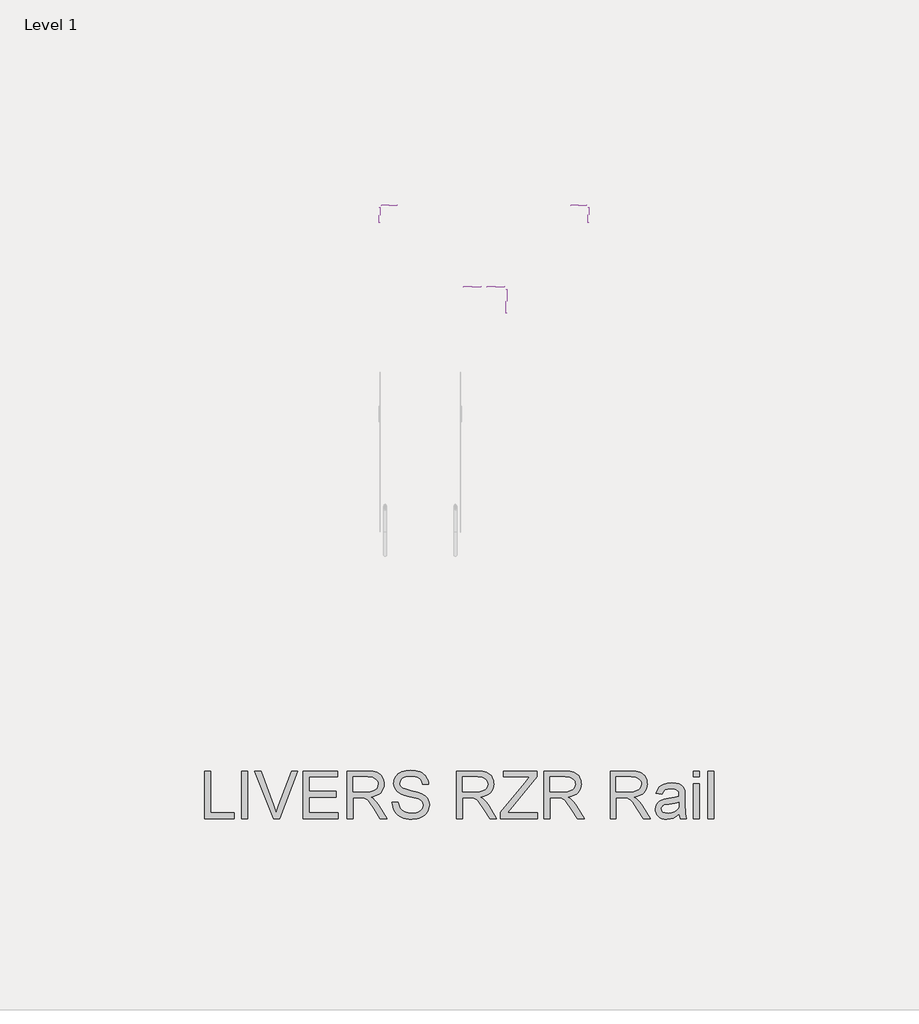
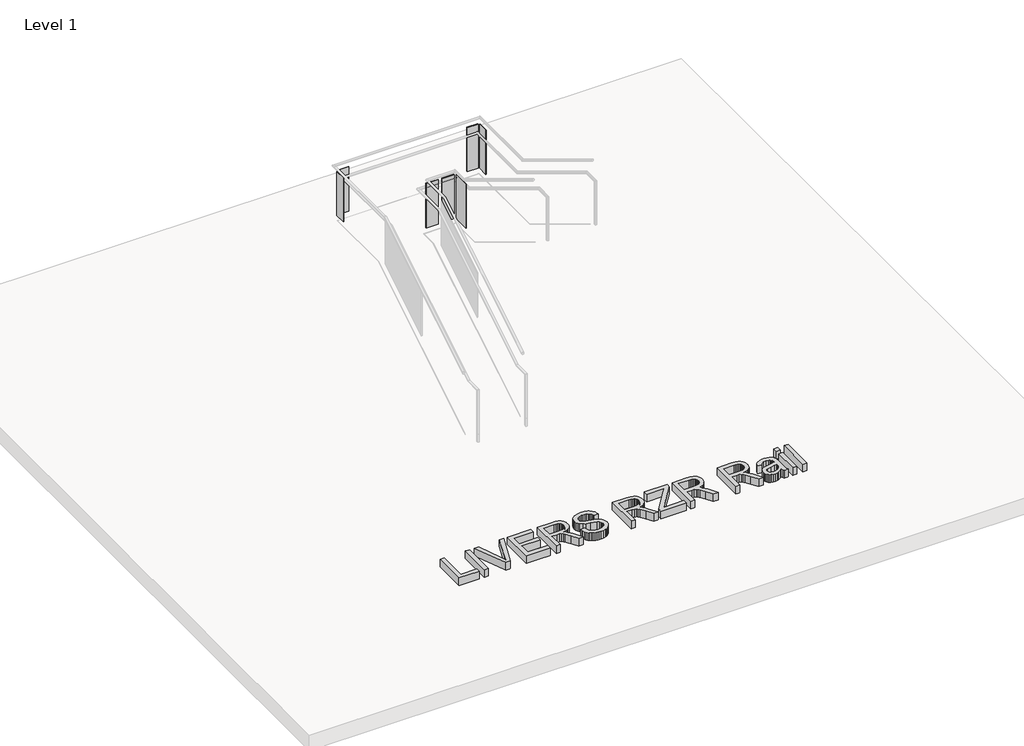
# One storey, part 2 of 2: 8 proxies.
"""IFC4 building model written with IfcOpenShell, lengths in millimetres."""

import ifcopenshell
import ifcopenshell.guid

model = None  # the IFC model being written
_history = None  # IfcOwnerHistory: only IFC2X3 demands one
_inside = {}  # id of a spatial element -> (the spatial element, [elements in it])
_under = {}  # id of a project, library or spatial element -> (it, [spatial elements below it])
_declared = {}  # id of a project -> (the project, [libraries it declares])
_typed = {}  # id of a type object -> (the type object, [elements of that type])
_made_of = {}  # id of a material, layer set ... -> (it, [elements and type objects made of it])


def new_model(schema):
    """Start an empty IFC model of exactly this schema.

    Asked for "IFC4X3", IfcOpenShell would pick the latest addendum, in which some entities
    have other attributes; the version numbers below select the first issue.
    IFC2X3 requires an IfcOwnerHistory on every rooted entity: one is made here for all.
    """
    global model, _history
    if schema == "IFC4X3":
        model = ifcopenshell.file(schema_version=(4, 3, 0, 0))
    else:
        model = ifcopenshell.file(schema=schema)
    _inside.clear()
    _under.clear()
    _declared.clear()
    _typed.clear()
    _made_of.clear()
    _history = None
    if model.schema == "IFC2X3":
        org = make("IfcOrganization", Name="unknown")
        user = make(
            "IfcPersonAndOrganization",
            ThePerson=make("IfcPerson", FamilyName="unknown"),
            TheOrganization=org,
        )
        app = make(
            "IfcApplication",
            ApplicationDeveloper=org,
            Version="unknown",
            ApplicationFullName="unknown",
            ApplicationIdentifier="unknown",
        )
        _history = make(
            "IfcOwnerHistory",
            OwningUser=user,
            OwningApplication=app,
            ChangeAction="ADDED",
            CreationDate=0,
        )
    return model


def make(cls, **values):
    """One entity of the class cls with the attributes given. An attribute that is None is left unset."""
    return model.create_entity(
        cls, **{name: value for name, value in values.items() if value is not None}
    )


def rooted(cls, **values):
    """An entity with a GlobalId (a new one), such as an element, a storey or a relation."""
    return make(cls, GlobalId=ifcopenshell.guid.new(), OwnerHistory=_history, **values)


def si_unit(unit_type, name, prefix=None):
    """IfcSIUnit, for example si_unit("LENGTHUNIT", "METRE", prefix="MILLI")."""
    return make("IfcSIUnit", UnitType=unit_type, Prefix=prefix, Name=name)


def assignment(units):
    """IfcUnitAssignment: the units of a project."""
    return None if units is None else make("IfcUnitAssignment", Units=units)


def point(xyz):
    """IfcCartesianPoint."""
    return None if xyz is None else make("IfcCartesianPoint", Coordinates=xyz)


def direction(xyz):
    """IfcDirection."""
    return None if xyz is None else make("IfcDirection", DirectionRatios=xyz)


def frame(location, z_axis=None, x_axis=None):
    """IfcAxis2Placement3D, a coordinate frame: its origin and axes. An axis left out is left unset."""
    return make(
        "IfcAxis2Placement3D",
        Location=point(location),
        Axis=direction(z_axis),
        RefDirection=direction(x_axis),
    )


def origin():
    """The frame at (0, 0, 0) with its axes left unset."""
    return frame((0.0, 0.0, 0.0))


def origin_with_axes():
    """The frame at (0, 0, 0) with the z axis (0, 0, 1) and the x axis (1, 0, 0) written out."""
    return frame((0.0, 0.0, 0.0), z_axis=(0.0, 0.0, 1.0), x_axis=(1.0, 0.0, 0.0))


def place(relative_to, where):
    """IfcLocalPlacement: puts the frame where relative to a parent placement (None: the world)."""
    return make(
        "IfcLocalPlacement", PlacementRelTo=relative_to, RelativePlacement=where
    )


def context(
    kind, dimensions, precision=None, world=None, true_north=None, identifier=None
):
    """IfcGeometricRepresentationContext, for example the 3D "Model" context."""
    return make(
        "IfcGeometricRepresentationContext",
        ContextIdentifier=identifier,
        ContextType=kind,
        CoordinateSpaceDimension=dimensions,
        Precision=precision,
        WorldCoordinateSystem=world,
        TrueNorth=true_north,
    )


def project(units=None, contexts=None):
    """IfcProject with its units and contexts."""
    return rooted(
        "IfcProject",
        Name="project",
        RepresentationContexts=contexts,
        UnitsInContext=assignment(units),
    )


def spatial(cls, under=None, at=None, **own):
    """A site, building, storey or space (cls), placed at a placement, below another one or the project."""
    s = rooted(cls, ObjectPlacement=at, **own)
    if under is not None:
        _under.setdefault(under.id(), (under, []))[1].append(s)
    return s


def polyline(points):
    """IfcPolyline through the points."""
    return make("IfcPolyline", Points=[point(p) for p in points])


def outline(outer, holes=None, kind="AREA"):
    """IfcArbitraryClosedProfileDef: a profile drawn as a closed curve; with holes, ...WithVoids."""
    if holes is None:
        return make("IfcArbitraryClosedProfileDef", ProfileType=kind, OuterCurve=outer)
    return make(
        "IfcArbitraryProfileDefWithVoids",
        ProfileType=kind,
        OuterCurve=outer,
        InnerCurves=holes,
    )


def extrude(swept, where, along, depth):
    """IfcExtrudedAreaSolid: the profile swept, set in the frame where, extruded along a direction by depth."""
    return make(
        "IfcExtrudedAreaSolid",
        SweptArea=swept,
        Position=where,
        ExtrudedDirection=direction(along),
        Depth=depth,
    )


def shape(context_of_items, identifier, shape_type, items):
    """IfcShapeRepresentation: the items that make up one representation, for example the "Body"."""
    return make(
        "IfcShapeRepresentation",
        ContextOfItems=context_of_items,
        RepresentationIdentifier=identifier,
        RepresentationType=shape_type,
        Items=items,
    )


def source(mapping_origin, context_of_items, identifier, shape_type, items):
    """IfcRepresentationMap: a shape defined once, which mapped items show again and again."""
    return make(
        "IfcRepresentationMap",
        MappingOrigin=mapping_origin,
        MappedRepresentation=shape(context_of_items, identifier, shape_type, items),
    )


def transform(
    local_origin,
    x_axis=None,
    y_axis=None,
    z_axis=None,
    scale=None,
    scale2=None,
    scale3=None,
    uniform=True,
):
    """IfcCartesianTransformationOperator3D, or its non-uniform kind. x_axis, y_axis, z_axis: its Axis1, 2, 3."""
    if uniform:
        return make(
            "IfcCartesianTransformationOperator3D",
            Axis1=direction(x_axis),
            Axis2=direction(y_axis),
            LocalOrigin=point(local_origin),
            Scale=scale,
            Axis3=direction(z_axis),
        )
    return make(
        "IfcCartesianTransformationOperator3DnonUniform",
        Axis1=direction(x_axis),
        Axis2=direction(y_axis),
        LocalOrigin=point(local_origin),
        Scale=scale,
        Axis3=direction(z_axis),
        Scale2=scale2,
        Scale3=scale3,
    )


def mapped(mapping_source, mapping_target):
    """IfcMappedItem: shows the shape of a source again, moved by a transform."""
    return make(
        "IfcMappedItem", MappingSource=mapping_source, MappingTarget=mapping_target
    )


def made_of(thing, what):
    """Note that an element or type object is made of a material, layer set ...; save() writes the relation."""
    if what is not None:
        _made_of.setdefault(what.id(), (what, []))[1].append(thing)
    return thing


def element(
    cls,
    number,
    at=None,
    inside=None,
    cuts=None,
    type_object=None,
    material=None,
    context=None,
    identifier="Body",
    shape_type=None,
    held_by="IfcProductDefinitionShape",
    body=None,
    shapes=None,
    **own,
):
    """One element of the class cls, such as IfcWall. Its Tag is "e" and its number.

    at: its placement. inside: the storey or other place that contains it. cuts: it is an
    opening in that element (IfcRelVoidsElement). A single representation is given by context,
    identifier, shape_type and body (its items); several are given by shapes. held_by: the class
    of the entity that holds the representations. save() writes the other relations.
    """
    e = rooted(cls, Tag="e%d" % number, ObjectPlacement=at, **own)
    if body is not None:
        shapes = [shape(context, identifier, shape_type, body)]
    if shapes is not None:
        e.Representation = make(held_by, Representations=shapes)
    if inside is not None:
        _inside.setdefault(inside.id(), (inside, []))[1].append(e)
    if cuts is not None:
        rooted(
            "IfcRelVoidsElement", RelatingBuildingElement=cuts, RelatedOpeningElement=e
        )
    if type_object is not None:
        _typed.setdefault(type_object.id(), (type_object, []))[1].append(e)
    return made_of(e, material)


def aggregate(whole, parts):
    """IfcRelAggregates: a whole, such as a stair, and the parts it consists of."""
    return rooted("IfcRelAggregates", RelatingObject=whole, RelatedObjects=parts)


def save(model, path):
    """Write the relations noted so far, then the file.

    IfcRelAggregates (storeys below a building ...), IfcRelContainedInSpatialStructure (elements
    in a storey), IfcRelDefinesByType, IfcRelAssociatesMaterial and IfcRelDeclares: one each for
    every whole, place, type object, material and project.
    """
    for whole, parts in _under.values():
        aggregate(whole, parts)
    for where, things in _inside.values():
        rooted(
            "IfcRelContainedInSpatialStructure",
            RelatedElements=things,
            RelatingStructure=where,
        )
    for kind, things in _typed.values():
        rooted("IfcRelDefinesByType", RelatedObjects=things, RelatingType=kind)
    for what, things in _made_of.values():
        rooted("IfcRelAssociatesMaterial", RelatedObjects=things, RelatingMaterial=what)
    for by, libraries in _declared.values():
        rooted("IfcRelDeclares", RelatingContext=by, RelatedDefinitions=libraries)
    model.write(path)


def building_element_proxy_ec87db15(model_context):
    return source(origin(), model_context, "Body", "SweptSolid", [
        extrude(outline(polyline([(694.9709296, 1.5872342), (496.3459196, 1.5872342), (496.3459196, 14.2874305), (694.9709296, 14.2874305), (694.9709296, 1.5872342)])), frame((0.0, 0.0, 114.3), z_axis=(0.0, 0.0, 1.0), x_axis=(1.0, 0.0, 0.0)), (0.0, 0.0, 1.0), 863.6),
    ])


def building_element_proxy_0649ee88(model_context):
    return source(origin(), model_context, "Body", "SweptSolid", [
        extrude(outline(polyline([(712.3653379, 1.5872342), (512.758958, 1.5872342), (512.758958, 14.2874305), (712.3653379, 14.2874305), (712.3653379, 1.5872342)])), frame((0.0, 0.0, 114.3), z_axis=(0.0, 0.0, 1.0), x_axis=(1.0, 0.0, 0.0)), (0.0, 0.0, 1.0), 863.6),
    ])


def building_element_proxy_b2e02714(model_context):
    return source(origin(), model_context, "Body", "SweptSolid", [
        extrude(outline(polyline([(772.6154299, 1.5872342), (466.3924724, 1.5872342), (466.3924724, 14.2874305), (772.6154299, 14.2874305), (772.6154299, 1.5872342)])), frame((0.0, 0.0, 114.3), z_axis=(0.0, 0.0, 1.0), x_axis=(1.0, 0.0, 0.0)), (0.0, 0.0, 1.0), 863.6),
    ])


def building_element_proxy_6401780f(model_context):
    return source(origin(), model_context, "Body", "SweptSolid", [
        extrude(outline(polyline([(691.0051631, 1.5872342), (493.0512595, 1.5872342), (493.0512595, 14.2874305), (691.0051631, 14.2874305), (691.0051631, 1.5872342)])), frame((0.0, 0.0, 114.3), z_axis=(0.0, 0.0, 1.0), x_axis=(1.0, 0.0, 0.0)), (0.0, 0.0, 1.0), 863.6),
    ])


def building_element_proxy_41440090(model_context):
    return source(origin(), model_context, "Body", "SweptSolid", [
        extrude(outline(polyline([(717.6189834, 1.5872342), (496.55514, 1.5872342), (496.55514, 14.2874305), (717.6189834, 14.2874305), (717.6189834, 1.5872342)])), frame((0.0, 0.0, 114.3), z_axis=(0.0, 0.0, 1.0), x_axis=(1.0, 0.0, 0.0)), (0.0, 0.0, 1.0), 863.6),
    ])


def building_element_proxy_1f8ac3fc(model_context):
    return source(origin(), model_context, "Body", "SweptSolid", [
        extrude(outline(polyline([(717.6189834, 1.5872342), (495.317627, 1.5872342), (495.317627, 14.2874305), (717.6189834, 14.2874305), (717.6189834, 1.5872342)])), frame((0.0, 0.0, 114.3), z_axis=(0.0, 0.0, 1.0), x_axis=(1.0, 0.0, 0.0)), (0.0, 0.0, 1.0), 863.6),
    ])


model = new_model("IFC4")

# Units and contexts
model_context = context("Model", 3, world=origin())
ifc_project = project(units=[si_unit("LENGTHUNIT", "METRE", prefix="MILLI")], contexts=[model_context])

# Site, building, storey
site = spatial("IfcSite", under=ifc_project)
building = spatial("IfcBuilding", under=site)
storey = spatial("IfcBuildingStorey", under=building, Name="Level 1", Elevation=0.0)

# Proxies
placement = place(None, origin())
building_element_proxy_shape = building_element_proxy_ec87db15(model_context)
element("IfcBuildingElementProxy", 1, Name="LIVERS_RZR - Glass Panel : LIVERS_RZR - Glass Panel", ObjectType="LIVERS_RZR - Glass Panel : LIVERS_RZR - Glass Panel", at=placement, inside=storey, context=model_context, shape_type="MappedRepresentation", body=[
    mapped(building_element_proxy_shape, transform((32328.1560196, -8254.2457615, 1680.6127155), x_axis=(0.0, -1.0, 0.0), y_axis=(1.0, 0.0, 0.0), z_axis=(0.0, 0.0, 1.0))),
])
building_element_proxy_2_shape = building_element_proxy_0649ee88(model_context)
element("IfcBuildingElementProxy", 2, Name="LIVERS_RZR - Glass Panel : LIVERS_RZR - Glass Panel", ObjectType="LIVERS_RZR - Glass Panel : LIVERS_RZR - Glass Panel", at=placement, inside=storey, context=model_context, shape_type="MappedRepresentation", body=[
    mapped(building_element_proxy_2_shape, transform((31600.8565317, -8734.5450361, 1680.6127155), x_axis=(1.0, 0.0, 0.0), y_axis=(0.0, 1.0, 0.0), z_axis=(0.0, 0.0, 1.0))),
])
building_element_proxy_3_shape = building_element_proxy_b2e02714(model_context)
element("IfcBuildingElementProxy", 3, Name="LIVERS_RZR - Glass Panel : LIVERS_RZR - Glass Panel", ObjectType="LIVERS_RZR - Glass Panel : LIVERS_RZR - Glass Panel", at=placement, inside=storey, context=model_context, shape_type="MappedRepresentation", body=[
    mapped(building_element_proxy_3_shape, transform((31312.1560196, -10559.8800257, 1680.6127155), x_axis=(0.0, 1.0, 0.0), y_axis=(-1.0, 0.0, 0.0), z_axis=(0.0, 0.0, 1.0))),
])
building_element_proxy_4_shape = building_element_proxy_6401780f(model_context)
element("IfcBuildingElementProxy", 4, Name="LIVERS_RZR - Glass Panel : LIVERS_RZR - Glass Panel", ObjectType="LIVERS_RZR - Glass Panel : LIVERS_RZR - Glass Panel", at=placement, inside=storey, context=model_context, shape_type="MappedRepresentation", body=[
    mapped(building_element_proxy_4_shape, transform((29225.9565317, -8734.5450361, 1680.6127155), x_axis=(1.0, 0.0, 0.0), y_axis=(0.0, 1.0, 0.0), z_axis=(0.0, 0.0, 1.0))),
])
element("IfcBuildingElementProxy", 5, Name="LIVERS_RZR - Glass Panel : LIVERS_RZR - Glass Panel", ObjectType="LIVERS_RZR - Glass Panel : LIVERS_RZR - Glass Panel", at=placement, inside=storey, context=model_context, shape_type="MappedRepresentation", body=[
    mapped(building_element_proxy_4_shape, transform((29702.5380155, -9442.3494194, 1680.6127155), x_axis=(0.0, 1.0, 0.0), y_axis=(-1.0, 0.0, 0.0), z_axis=(0.0, 0.0, 1.0))),
])
building_element_proxy_5_shape = building_element_proxy_41440090(model_context)
element("IfcBuildingElementProxy", 6, Name="LIVERS_RZR - Glass Panel : LIVERS_RZR - Glass Panel", ObjectType="LIVERS_RZR - Glass Panel : LIVERS_RZR - Glass Panel", at=placement, inside=storey, context=model_context, shape_type="MappedRepresentation", body=[
    mapped(building_element_proxy_5_shape, transform((31770.9970175, -9750.5450361, 1680.6127155), x_axis=(-1.0, 0.0, 0.0), y_axis=(0.0, -1.0, 0.0), z_axis=(0.0, 0.0, 1.0))),
])
building_element_proxy_6_shape = building_element_proxy_1f8ac3fc(model_context)
element("IfcBuildingElementProxy", 7, Name="LIVERS_RZR - Glass Panel : LIVERS_RZR - Glass Panel", ObjectType="LIVERS_RZR - Glass Panel : LIVERS_RZR - Glass Panel", at=placement, inside=storey, context=model_context, shape_type="MappedRepresentation", body=[
    mapped(building_element_proxy_6_shape, transform((31472.5470175, -9750.5450361, 1680.6127155), x_axis=(-1.0, 0.0, 0.0), y_axis=(0.0, -1.0, 0.0), z_axis=(0.0, 0.0, 1.0))),
])
element("IfcBuildingElementProxy", 8, Name="24\" Arial", ObjectType="24\" Arial", at=placement, inside=storey, context=model_context, shape_type="SweptSolid", body=[
    extrude(outline(polyline([(27482.9841583, -16480.0816777), (27482.9841583, -15879.8601392), (27558.0118506, -15879.8601392), (27558.0118506, -16405.0539854), (27858.1226198, -16405.0539854), (27858.1226198, -16480.0816777), (27482.9841583, -16480.0816777)])), origin_with_axes(), (0.0, 0.0, 1.0), 152.4),
    extrude(outline(polyline([(27951.9072352, -16480.0816777), (27951.9072352, -15879.8601392), (28026.9349275, -15879.8601392), (28026.9349275, -16480.0816777), (27951.9072352, -16480.0816777)])), origin_with_axes(), (0.0, 0.0, 1.0), 152.4),
    extrude(outline(polyline([(28354.3018506, -16480.0816777), (28115.4441583, -15879.8601392), (28195.7472352, -15879.8601392), (28355.6206967, -16312.2951392), (28388.0056967, -16409.7432161), (28419.9510813, -16312.2951392), (28580.2641583, -15879.8601392), (28660.5672352, -15879.8601392), (28431.8206967, -16480.0816777), (28354.3018506, -16480.0816777)])), origin_with_axes(), (0.0, 0.0, 1.0), 152.4),
    extrude(outline(polyline([(28730.3195429, -16480.0816777), (28730.3195429, -15879.8601392), (29161.7287737, -15879.8601392), (29161.7287737, -15954.8878315), (28805.3472352, -15954.8878315), (28805.3472352, -16133.0786007), (29142.9718506, -16133.0786007), (29142.9718506, -16208.106293), (28805.3472352, -16208.106293), (28805.3472352, -16405.0539854), (29171.1072352, -16405.0539854), (29171.1072352, -16480.0816777), (28730.3195429, -16480.0816777)])), origin_with_axes(), (0.0, 0.0, 1.0), 152.4),
    extrude(outline(polyline([(29283.6487737, -16480.0816777), (29283.6487737, -15879.8601392), (29542.2891583, -15879.8601392), (29611.803341, -15883.9082642), (29662.3774275, -15896.0526392), (29681.8945188, -15905.7058604), (29699.3417544, -15918.4730238), (29714.7191342, -15934.3541296), (29728.0266583, -15953.3491777), (29738.7651799, -15974.4369781), (29746.4355525, -15996.5963411), (29751.0377761, -16019.8272666), (29752.5718506, -16044.1297546), (29750.0303241, -16074.9577834), (29742.4057448, -16103.2580238), (29729.6981126, -16129.0304757), (29711.9074275, -16152.2751392), (29688.8047232, -16172.2501632), (29660.1610333, -16188.2136969), (29625.9763578, -16200.1657402), (29586.2506967, -16208.106293), (29610.9790621, -16224.2621584), (29628.893389, -16240.1982161), (29659.6298313, -16276.6496584), (29689.7068506, -16317.4239854), (29789.7926198, -16480.0816777), (29702.6022352, -16480.0816777), (29624.4972352, -16355.6705238), (29568.0799275, -16273.3159084), (29547.1066102, -16249.301918), (29528.4412737, -16234.4099469), (29492.7591583, -16220.1224469), (29449.2372352, -16217.4847546), (29358.676466, -16217.4847546), (29358.676466, -16480.0816777), (29283.6487737, -16480.0816777)]), holes=[polyline([(29358.676466, -16142.4570623), (29526.6095429, -16142.4570623), (29574.839014, -16139.8010527), (29612.2612737, -16131.8330238), (29640.4332929, -16118.0217738), (29660.9120429, -16097.8361007), (29673.3861294, -16073.4191296), (29677.5441583, -16046.9139854), (29675.5613097, -16027.7266055), (29669.612764, -16010.3160046), (29659.6985212, -15994.6821825), (29645.8185813, -15980.8251392), (29627.6523914, -15969.4775671), (29604.8793987, -15961.3721584), (29577.499603, -15956.5089132), (29545.5130044, -15954.8878315), (29358.676466, -15954.8878315), (29358.676466, -16142.4570623)])]), origin_with_axes(), (0.0, 0.0, 1.0), 152.4),
    extrude(outline(polyline([(29855.7349275, -16273.7555238), (29930.7626198, -16273.7555238), (29939.3717544, -16315.3907642), (29954.941466, -16348.8564854), (29979.230216, -16375.4165815), (30013.996466, -16396.3349469), (30056.4926198, -16409.9080719), (30103.9710813, -16414.4324469), (30145.7711775, -16411.0071104), (30182.3691583, -16400.7311007), (30212.0248794, -16384.4653315), (30232.9981967, -16363.0707161), (30245.4722833, -16338.5072065), (30249.6303121, -16312.7347546), (30246.5163698, -16287.6217257), (30237.1745429, -16265.9157161), (30218.1978121, -16247.396918), (30186.1791583, -16231.8455238), (30076.9347352, -16203.1972546), (30005.2224756, -16184.2388411), (29959.3376198, -16166.196293), (29921.9886294, -16140.955043), (29895.5201198, -16110.3651392), (29879.7489179, -16075.0860046), (29874.4918506, -16035.7770623), (29876.1175116, -16013.4345262), (29880.9944948, -15991.8338411), (29889.1228001, -15970.975007), (29900.5024275, -15950.8580238), (29915.0051559, -15932.3025911), (29932.502764, -15916.1284084), (29952.995252, -15902.3354757), (29976.4826198, -15890.923793), (30029.2731006, -15875.5922065), (30087.7053121, -15870.4816777), (30151.0099275, -15875.8303315), (30206.401466, -15891.876293), (30230.635264, -15903.8283363), (30251.9016583, -15918.2898507), (30270.2006487, -15935.2608363), (30285.5322352, -15954.741293), (30297.7773554, -15976.1633844), (30306.8169467, -15998.9592738), (30312.6510092, -16023.1289613), (30315.2795429, -16048.6724469), (30240.2518506, -16048.6724469), (30235.2329083, -16024.7317257), (30226.4772352, -16003.9049469), (30213.9848313, -15986.1921104), (30197.7556967, -15971.5932161), (30177.4875958, -15960.1815334), (30152.8782929, -15952.0303315), (30123.9277881, -15947.1396104), (30090.6360813, -15945.50937), (30056.2819708, -15947.121293), (30026.9284852, -15951.9570623), (30002.5756246, -15960.0166777), (29983.223389, -15971.3001392), (29968.4779563, -15984.8641055), (29957.9455044, -15999.7652354), (29951.6260333, -16016.0035286), (29949.5195429, -16033.5789854), (29951.0124035, -16048.6999229), (29955.4909852, -16062.4104277), (29962.9552881, -16074.7104998), (29973.4053121, -16085.6001392), (29989.8542544, -16095.9127834), (30015.7549275, -16106.3353315), (30095.911466, -16127.5101392), (30178.6324275, -16147.622543), (30228.6753121, -16165.1705238), (30271.4462256, -16192.390043), (30287.9821751, -16208.3902113), (30301.2851198, -16225.9839854), (30311.5107568, -16245.0797786), (30318.8147833, -16265.5860046), (30324.6580044, -16310.8297546), (30322.9773914, -16334.2988051), (30317.9355525, -16357.0809565), (30309.5324876, -16379.1762089), (30297.7681967, -16400.5845623), (30282.8487496, -16420.4771584), (30264.980216, -16438.0251392), (30244.1625958, -16453.2285046), (30220.395889, -16466.0872546), (30194.3715741, -16476.3128916), (30166.7811294, -16483.616918), (30106.9018506, -16489.4601392), (30068.5225116, -16487.8848507), (30033.3944948, -16483.1589854), (30001.5178001, -16475.282543), (29972.8924275, -16464.2555238), (29947.3443626, -16450.0596104), (29924.699591, -16432.6764854), (29904.9581126, -16412.1061488), (29888.1199275, -16388.3486007), (29874.5559612, -16362.173168), (29864.637139, -16334.3491777), (29858.3634612, -16304.8766296), (29855.7349275, -16273.7555238)])), origin_with_axes(), (0.0, 0.0, 1.0), 152.4),
    extrude(outline(polyline([(30671.6610813, -16480.0816777), (30671.6610813, -15879.8601392), (30930.301466, -15879.8601392), (30999.8156487, -15883.9082642), (31050.3897352, -15896.0526392), (31069.9068265, -15905.7058604), (31087.3540621, -15918.4730238), (31102.7314419, -15934.3541296), (31116.038966, -15953.3491777), (31126.7774876, -15974.4369781), (31134.4478602, -15996.5963411), (31139.0500837, -16019.8272666), (31140.5841583, -16044.1297546), (31138.0426318, -16074.9577834), (31130.4180525, -16103.2580238), (31117.7104203, -16129.0304757), (31099.9197352, -16152.2751392), (31076.8170309, -16172.2501632), (31048.173341, -16188.2136969), (31013.9886655, -16200.1657402), (30974.2630044, -16208.106293), (30998.9913698, -16224.2621584), (31016.9056967, -16240.1982161), (31047.642139, -16276.6496584), (31077.7191583, -16317.4239854), (31177.8049275, -16480.0816777), (31090.6145429, -16480.0816777), (31012.5095429, -16355.6705238), (30956.0922352, -16273.3159084), (30935.1189179, -16249.301918), (30916.4535813, -16234.4099469), (30880.771466, -16220.1224469), (30837.2495429, -16217.4847546), (30746.6887737, -16217.4847546), (30746.6887737, -16480.0816777), (30671.6610813, -16480.0816777)]), holes=[polyline([(30746.6887737, -16142.4570623), (30914.6218506, -16142.4570623), (30962.8513217, -16139.8010527), (31000.2735813, -16131.8330238), (31028.4456006, -16118.0217738), (31048.9243506, -16097.8361007), (31061.3984371, -16073.4191296), (31065.556466, -16046.9139854), (31063.5736174, -16027.7266055), (31057.6250717, -16010.3160046), (31047.7108289, -15994.6821825), (31033.830889, -15980.8251392), (31015.6646991, -15969.4775671), (30992.8917063, -15961.3721584), (30965.5119107, -15956.5089132), (30933.5253121, -15954.8878315), (30746.6887737, -15954.8878315), (30746.6887737, -16142.4570623)])]), origin_with_axes(), (0.0, 0.0, 1.0), 152.4),
    extrude(outline(polyline([(31224.9903121, -16480.0816777), (31224.9903121, -16402.2697546), (31531.988389, -16026.3986007), (31590.3106967, -15954.8878315), (31262.5041583, -15954.8878315), (31262.5041583, -15879.8601392), (31684.5349275, -15879.8601392), (31684.5349275, -15954.8878315), (31348.5222352, -16366.221293), (31316.8699275, -16405.0539854), (31693.913389, -16405.0539854), (31693.913389, -16480.0816777), (31224.9903121, -16480.0816777)])), origin_with_axes(), (0.0, 0.0, 1.0), 152.4),
    extrude(outline(polyline([(31778.3195429, -16480.0816777), (31778.3195429, -15879.8601392), (32036.9599275, -15879.8601392), (32106.4741102, -15883.9082642), (32157.0481967, -15896.0526392), (32176.5652881, -15905.7058604), (32194.0125237, -15918.4730238), (32209.3899035, -15934.3541296), (32222.6974275, -15953.3491777), (32233.4359491, -15974.4369781), (32241.1063217, -15996.5963411), (32245.7085453, -16019.8272666), (32247.2426198, -16044.1297546), (32244.7010934, -16074.9577834), (32237.076514, -16103.2580238), (32224.3688818, -16129.0304757), (32206.5781967, -16152.2751392), (32183.4754924, -16172.2501632), (32154.8318025, -16188.2136969), (32120.647127, -16200.1657402), (32080.921466, -16208.106293), (32105.6498313, -16224.2621584), (32123.5641583, -16240.1982161), (32154.3006006, -16276.6496584), (32184.3776198, -16317.4239854), (32284.463389, -16480.0816777), (32197.2730044, -16480.0816777), (32119.1680044, -16355.6705238), (32062.7506967, -16273.3159084), (32041.7773794, -16249.301918), (32023.1120429, -16234.4099469), (31987.4299275, -16220.1224469), (31943.9080044, -16217.4847546), (31853.3472352, -16217.4847546), (31853.3472352, -16480.0816777), (31778.3195429, -16480.0816777)]), holes=[polyline([(31853.3472352, -16142.4570623), (32021.2803121, -16142.4570623), (32069.5097833, -16139.8010527), (32106.9320429, -16131.8330238), (32135.1040621, -16118.0217738), (32155.5828121, -16097.8361007), (32168.0568987, -16073.4191296), (32172.2149275, -16046.9139854), (32170.2320789, -16027.7266055), (32164.2835333, -16010.3160046), (32154.3692905, -15994.6821825), (32140.4893506, -15980.8251392), (32122.3231607, -15969.4775671), (32099.5501679, -15961.3721584), (32072.1703722, -15956.5089132), (32040.1837737, -15954.8878315), (31853.3472352, -15954.8878315), (31853.3472352, -16142.4570623)])]), origin_with_axes(), (0.0, 0.0, 1.0), 152.4),
    extrude(outline(polyline([(32613.0026198, -16480.0816777), (32613.0026198, -15879.8601392), (32871.6430044, -15879.8601392), (32941.1571871, -15883.9082642), (32991.7312737, -15896.0526392), (33011.248365, -15905.7058604), (33028.6956006, -15918.4730238), (33044.0729804, -15934.3541296), (33057.3805044, -15953.3491777), (33068.1190261, -15974.4369781), (33075.7893987, -15996.5963411), (33080.3916222, -16019.8272666), (33081.9256967, -16044.1297546), (33079.3841703, -16074.9577834), (33071.759591, -16103.2580238), (33059.0519587, -16129.0304757), (33041.2612737, -16152.2751392), (33018.1585693, -16172.2501632), (32989.5148794, -16188.2136969), (32955.3302039, -16200.1657402), (32915.6045429, -16208.106293), (32940.3329083, -16224.2621584), (32958.2472352, -16240.1982161), (32988.9836775, -16276.6496584), (33019.0606967, -16317.4239854), (33119.146466, -16480.0816777), (33031.9560813, -16480.0816777), (32953.8510813, -16355.6705238), (32897.4337737, -16273.3159084), (32876.4604563, -16249.301918), (32857.7951198, -16234.4099469), (32822.1130044, -16220.1224469), (32778.5910813, -16217.4847546), (32688.0303121, -16217.4847546), (32688.0303121, -16480.0816777), (32613.0026198, -16480.0816777)]), holes=[polyline([(32688.0303121, -16142.4570623), (32855.963389, -16142.4570623), (32904.1928602, -16139.8010527), (32941.6151198, -16131.8330238), (32969.787139, -16118.0217738), (32990.265889, -16097.8361007), (33002.7399756, -16073.4191296), (33006.8980044, -16046.9139854), (33004.9151559, -16027.7266055), (32998.9666102, -16010.3160046), (32989.0523674, -15994.6821825), (32975.1724275, -15980.8251392), (32957.0062376, -15969.4775671), (32934.2332448, -15961.3721584), (32906.8534491, -15956.5089132), (32874.8668506, -15954.8878315), (32688.0303121, -15954.8878315), (32688.0303121, -16142.4570623)])]), origin_with_axes(), (0.0, 0.0, 1.0), 152.4),
    extrude(outline(polyline([(33485.1995429, -16423.8109084), (33449.3525717, -16454.5473507), (33412.4431967, -16474.6597546), (33373.6288217, -16485.760043), (33332.0668506, -16489.4601392), (33298.6606607, -16487.2345863), (33269.3667063, -16480.5579277), (33244.1849876, -16469.4301632), (33223.1155044, -16453.851293), (33206.4788097, -16434.8104517), (33194.5954563, -16413.2967738), (33187.4654443, -16389.3102594), (33185.0887737, -16362.8509084), (33188.678966, -16331.74812), (33199.4495429, -16303.5028315), (33216.063341, -16279.3239854), (33237.1831967, -16260.4205238), (33262.0031487, -16246.1330238), (33289.7172352, -16235.8020623), (33354.6337737, -16224.5186007), (33431.3466583, -16212.6489854), (33484.7599275, -16198.7278315), (33485.1995429, -16182.0224469), (33480.0340621, -16148.5384084), (33473.5772112, -16136.1375911), (33464.5376198, -16126.6309084), (33448.9129563, -16117.142543), (33429.8812737, -16110.3651392), (33381.5968506, -16104.9432161), (33336.9026198, -16108.5517257), (33305.6899275, -16119.3772546), (33284.405216, -16139.3980719), (33269.4949275, -16170.5924469), (33194.4672352, -16161.2139854), (33207.490841, -16120.1832161), (33226.9255044, -16087.9447546), (33254.584639, -16063.2896584), (33292.2816583, -16045.0089854), (33338.3863217, -16033.6888892), (33391.268389, -16029.9155238), (33441.989014, -16033.2492738), (33482.1955044, -16043.2505238), (33512.5106487, -16058.2890334), (33533.5572352, -16076.7345623), (33547.5150237, -16099.5396104), (33556.5637737, -16127.6566777), (33560.2272352, -16193.3059084), (33560.2272352, -16286.6509084), (33564.0372352, -16416.99687), (33569.678966, -16449.2170142), (33578.9841583, -16480.0816777), (33503.956466, -16480.0816777), (33491.9403121, -16453.9978315), (33485.1995429, -16423.8109084)]), holes=[polyline([(33485.1995429, -16273.7555238), (33434.7903121, -16286.2479277), (33364.1587737, -16296.7620623), (33299.6085813, -16308.9247546), (33282.8116102, -16317.2408123), (33270.3741583, -16328.7074469), (33262.680889, -16342.4454277), (33260.116466, -16357.5755238), (33265.7032448, -16379.8860046), (33282.4635813, -16398.1666777), (33310.0311294, -16410.3660046), (33348.0395429, -16414.4324469), (33388.3376198, -16409.9447065), (33423.946466, -16396.4814854), (33452.8145429, -16376.6438411), (33472.8903121, -16353.0328315), (33481.7925237, -16328.7074469), (33484.7599275, -16295.0036007), (33485.1995429, -16273.7555238)])]), origin_with_axes(), (0.0, 0.0, 1.0), 152.4),
    extrude(outline(polyline([(33663.3903121, -16480.0816777), (33663.3903121, -16039.2939854), (33738.4180044, -16039.2939854), (33738.4180044, -16480.0816777), (33663.3903121, -16480.0816777)])), origin_with_axes(), (0.0, 0.0, 1.0), 152.4),
    extrude(outline(polyline([(33663.3903121, -15954.8878315), (33663.3903121, -15879.8601392), (33738.4180044, -15879.8601392), (33738.4180044, -15954.8878315), (33663.3903121, -15954.8878315)])), origin_with_axes(), (0.0, 0.0, 1.0), 152.4),
    extrude(outline(polyline([(33850.9595429, -16480.0816777), (33850.9595429, -15879.8601392), (33925.9872352, -15879.8601392), (33925.9872352, -16480.0816777), (33850.9595429, -16480.0816777)])), origin_with_axes(), (0.0, 0.0, 1.0), 152.4),
])

save(model, "model.ifc")
